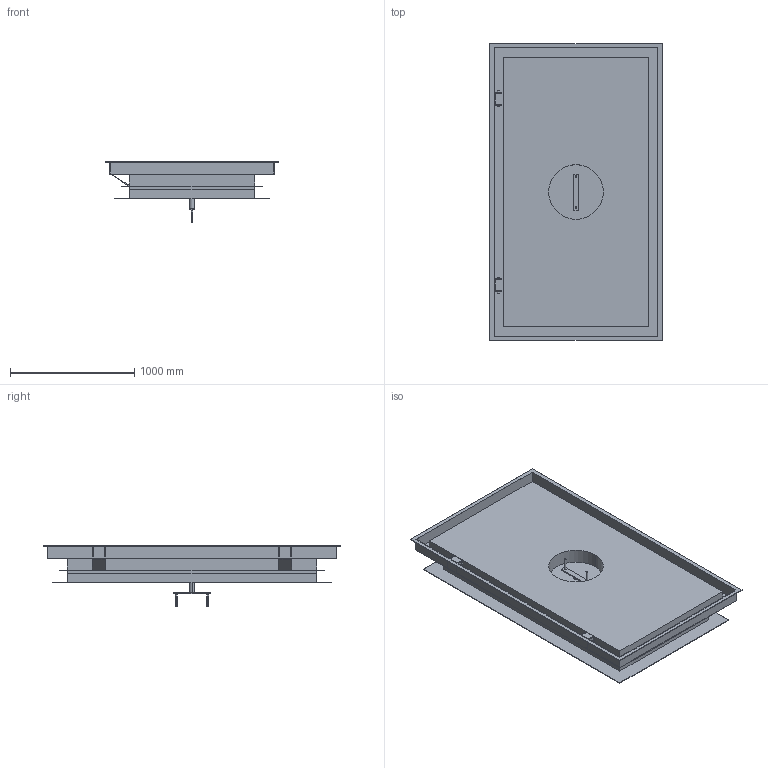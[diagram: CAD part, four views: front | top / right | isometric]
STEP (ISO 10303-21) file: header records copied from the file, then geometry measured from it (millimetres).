
FILE_DESCRIPTION((''),'2;1');
FILE_NAME('51834665','2024-02-16T11:20:34',('ka'),('HUBER SE'),'CREO PARAMETRIC BY PTC INC, 2022162','CREO PARAMETRIC BY PTC INC, 2022162','');
FILE_SCHEMA(('AUTOMOTIVE_DESIGN { 1 0 10303 214 1 1 1 1 }'));
Length unit declared in the file: millimetre
Products named in the file (1): 51834665
Bounding box: 1390 x 2390 x 489 mm (x, y, z)
Volume: 462629548.7 mm3; surface area: 13727237.2 mm2
Topology: 3 solids, 3 shells, 134 faces, 427 edges, 313 vertices
Faces by surface type: plane 112, cylinder 22
Entity records: 6147 total; most frequent: CARTESIAN_POINT 947, DIRECTION 740, ORIENTED_EDGE 652, VECTOR 345, LINE 345, EDGE_CURVE 326, VERTEX_POINT 212, AXIS2_PLACEMENT_3D 196
